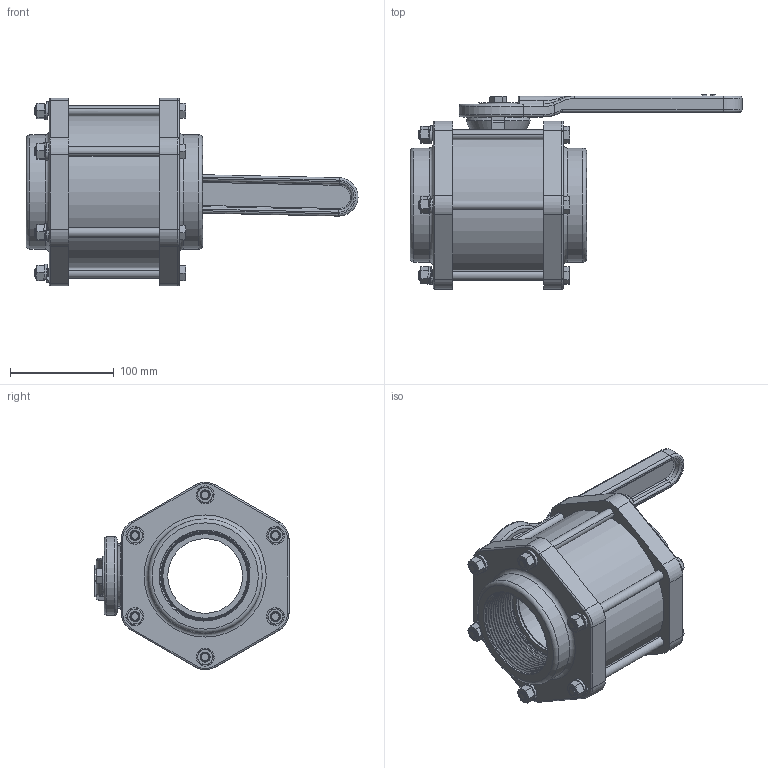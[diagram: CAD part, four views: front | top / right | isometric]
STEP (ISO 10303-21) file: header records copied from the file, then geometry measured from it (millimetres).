
FILE_DESCRIPTION(/* description */ ('Alibre Inc.'),/* implementation_level */ '2;1');
FILE_NAME(/* name */ 'export0',/* time_stamp */ '2017-05-17T11:38:36-04:00',/* author */ (''),/* organization */ (''),/* preprocessor_version */ 'ST-DEVELOPER v14',/* originating_system */ 'Alibre',/* authorisation */ '');
FILE_SCHEMA (('CONFIG_CONTROL_DESIGN'));
Products named in the file (16): ID_1; ID_2; ID_3; ID_4; ID_5; ID_6; ID_7; ID_8; ID_9; ID_10; ID_11; ID_12
Bounding box: 320.49 x 187.45 x 181.23 mm (x, y, z)
Volume: 1883617.6 mm3; surface area: 425648.4 mm2
Topology: 31 solids, 31 shells, 1192 faces, 3054 edges, 1950 vertices
Faces by surface type: cylinder 438, plane 300, cone 252, bspline 144, torus 55, sphere 3
Full cylindrical faces by diameter (mm): 7.798 x1, 10.16 x12, 10.414 x1, 26.67 x1, 31.75 x3, 36.322 x1, 37.592 x1, 38.1 x1, 72.136 x2, 75.133 x2, 75.946 x1, 85.598 x2, 85.852 x2, 110.236 x2, 124.714 x2, 126.238 x1, 131.216 x2, 138.176 x2, 146.304 x1
Entity records: 67242 total; most frequent: CARTESIAN_POINT 52775, ORIENTED_EDGE 2874, DIRECTION 2015, EDGE_CURVE 1437, VERTEX_POINT 944, AXIS2_PLACEMENT_3D 816, FACE_BOUND 683, EDGE_LOOP 681
